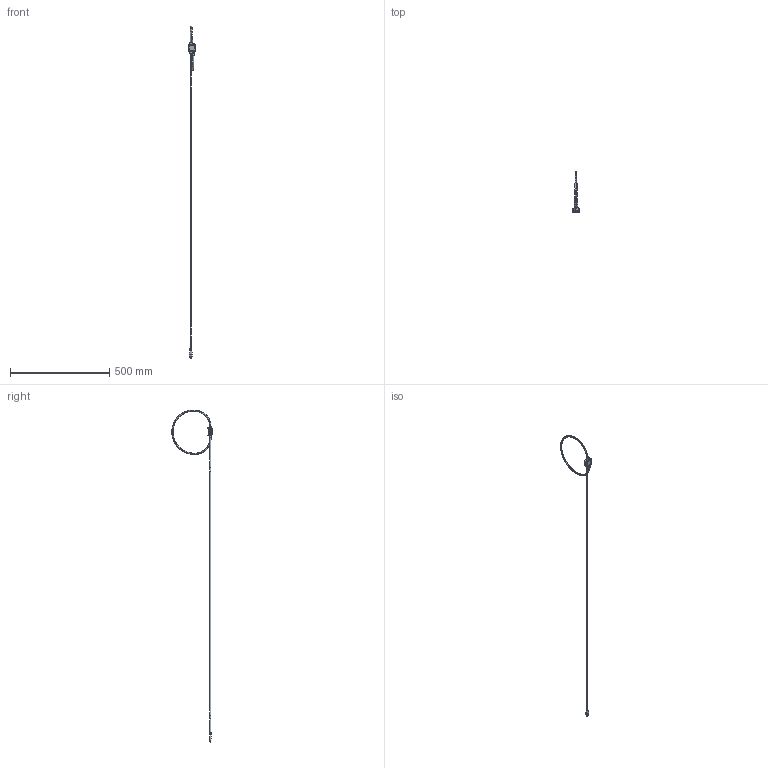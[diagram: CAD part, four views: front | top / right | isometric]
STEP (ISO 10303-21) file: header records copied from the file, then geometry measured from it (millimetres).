
FILE_DESCRIPTION(('Creo Elements/Direct Modeling STEP Export'),'2;1');
FILE_NAME('90.M8.99.016.0.stp','2020-12-15T17:44:37',(''),(''),'Creo Elements/Direct Modeling STEP processor for AP214 (Solid Model)','Creo Elements/Direct Modeling 20.1 10-Mar-2018 (C) Parametric Technology GmbH','');
FILE_SCHEMA(('AUTOMOTIVE_DESIGN { 1 0 10303 214 1 1 1 1 }'));
Products named in the file (2): BLACKBOX
Assembly tree (1 placements, depth 2):
  BLACKBOX
    BLACKBOX
Bounding box: 33.64 x 202.95 x 1674.38 mm (x, y, z)
Volume: 80404.6 mm3; surface area: 47342 mm2
Topology: 1 solids, 1 shells, 1367 faces, 3650 edges, 2263 vertices
Faces by surface type: plane 561, bspline 320, cylinder 292, torus 143, cone 32, extrusion 10, sphere 9
Entity records: 105695 total; most frequent: CARTESIAN_POINT 71388, ORIENTED_EDGE 7284, DIRECTION 4797, EDGE_CURVE 3639, VERTEX_POINT 2263, VECTOR 1685, LINE 1675, AXIS2_PLACEMENT_3D 1556
